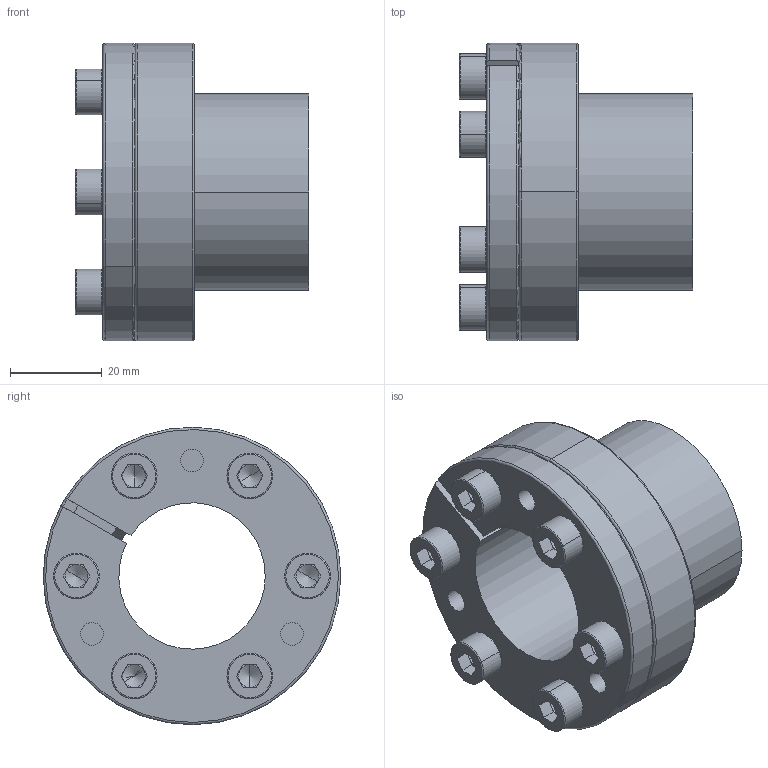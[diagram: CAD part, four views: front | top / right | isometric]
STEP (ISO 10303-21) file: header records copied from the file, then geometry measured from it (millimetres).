
FILE_DESCRIPTION (( 'STEP AP203' ), '1' );
FILE_NAME ('SAPL-T-32-43.STEP', '2017-06-15T00:20:15', ( '' ), ( '' ), 'SwSTEP 2.0', 'SolidWorks 2015', '' );
FILE_SCHEMA (( 'CONFIG_CONTROL_DESIGN' ));
Length unit declared in the file: millimetre
Products named in the file (1): SAPL-T-32-43
Bounding box: 51 x 65 x 65 mm (x, y, z)
Volume: 63113 mm3; surface area: 25068 mm2
Topology: 1 solids, 1 shells, 255 faces, 604 edges, 358 vertices
Faces by surface type: plane 101, cylinder 82, torus 43, cone 29
Entity records: 7409 total; most frequent: DIRECTION 1398, CARTESIAN_POINT 1262, ORIENTED_EDGE 1184, EDGE_CURVE 592, AXIS2_PLACEMENT_3D 562, VERTEX_POINT 358, CIRCLE 306, EDGE_LOOP 298
